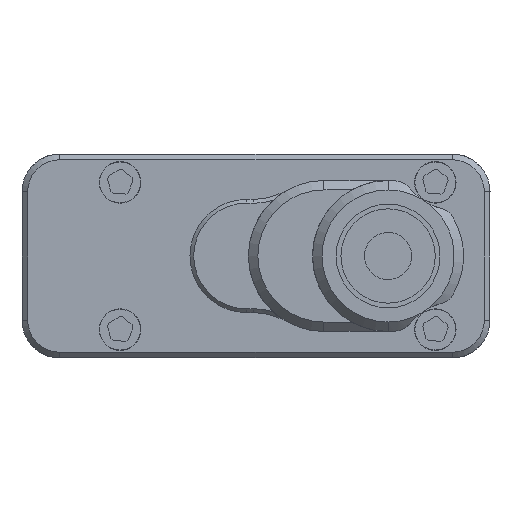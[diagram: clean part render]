
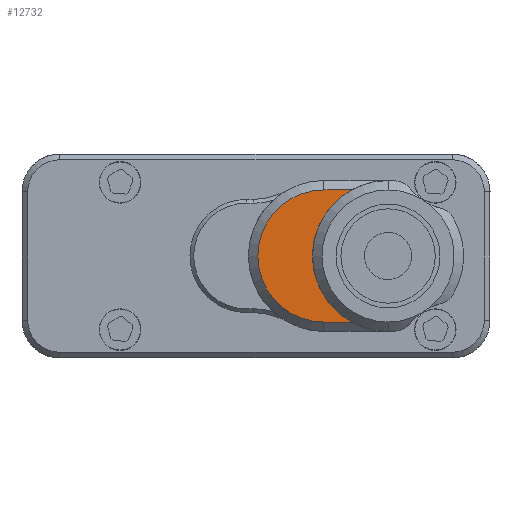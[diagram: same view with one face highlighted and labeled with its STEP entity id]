
A CAD part, front view. The second image highlights one B-rep face of the part: STEP entity #12732.
In plain terms, the highlighted planar face has unit normal (0, -1, 0).
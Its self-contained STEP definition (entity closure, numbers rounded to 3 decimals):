
#701 = DIRECTION ( 'NONE',  ( 0., 1., 0. ) ) ;
#1435 = CARTESIAN_POINT ( 'NONE',  ( 7., -27.6, 0. ) ) ;
#2496 = ORIENTED_EDGE ( 'NONE', *, *, #33783, .T. ) ;
#6050 = DIRECTION ( 'NONE',  ( -1., 0., 0. ) ) ;
#6135 = VERTEX_POINT ( 'NONE', #16316 ) ;
#8798 = FACE_OUTER_BOUND ( 'NONE', #17277, .T. ) ;
#8940 = CIRCLE ( 'NONE', #39844, 4. ) ;
#9020 = DIRECTION ( 'NONE',  ( 1., 0., 0. ) ) ;
#9126 = DIRECTION ( 'NONE',  ( 0., -1., 0. ) ) ;
#10149 = ORIENTED_EDGE ( 'NONE', *, *, #39308, .F. ) ;
#11168 = LINE ( 'NONE', #44459, #34325 ) ;
#12265 = AXIS2_PLACEMENT_3D ( 'NONE', #22921, #701, #14099 ) ;
#12732 = ADVANCED_FACE ( 'NONE', ( #8798 ), #27042, .T. ) ;
#12956 = VERTEX_POINT ( 'NONE', #38029 ) ;
#13276 = ORIENTED_EDGE ( 'NONE', *, *, #34217, .T. ) ;
#14099 = DIRECTION ( 'NONE',  ( 0., 0., 1. ) ) ;
#16316 = CARTESIAN_POINT ( 'NONE',  ( 5.064, -27.6, -3.5 ) ) ;
#17277 = EDGE_LOOP ( 'NONE', ( #2496, #10149, #13276, #45420 ) ) ;
#18819 = DIRECTION ( 'NONE',  ( 0., 0., -1. ) ) ;
#22921 = CARTESIAN_POINT ( 'NONE',  ( 3.6, -27.6, 0. ) ) ;
#27042 = PLANE ( 'NONE',  #48741 ) ;
#27865 = DIRECTION ( 'NONE',  ( 0., 0., -1. ) ) ;
#31237 = VERTEX_POINT ( 'NONE', #37506 ) ;
#33783 = EDGE_CURVE ( 'NONE', #50851, #12956, #11168, .T. ) ;
#34217 = EDGE_CURVE ( 'NONE', #31237, #6135, #49065, .T. ) ;
#34325 = VECTOR ( 'NONE', #6050, 1000. ) ;
#35724 = CARTESIAN_POINT ( 'NONE',  ( 7., -27.6, -3.5 ) ) ;
#35788 = DIRECTION ( 'NONE',  ( 0., -1., 0. ) ) ;
#37506 = CARTESIAN_POINT ( 'NONE',  ( 3.6, -27.6, -3.5 ) ) ;
#38029 = CARTESIAN_POINT ( 'NONE',  ( 3.6, -27.6, 3.5 ) ) ;
#39308 = EDGE_CURVE ( 'NONE', #31237, #12956, #54947, .T. ) ;
#39715 = CARTESIAN_POINT ( 'NONE',  ( 5.064, -27.6, 3.5 ) ) ;
#39844 = AXIS2_PLACEMENT_3D ( 'NONE', #1435, #9126, #18819 ) ;
#44459 = CARTESIAN_POINT ( 'NONE',  ( 7., -27.6, 3.5 ) ) ;
#45420 = ORIENTED_EDGE ( 'NONE', *, *, #55616, .F. ) ;
#47098 = VECTOR ( 'NONE', #9020, 1000. ) ;
#48011 = CARTESIAN_POINT ( 'NONE',  ( 7., -27.6, 0. ) ) ;
#48741 = AXIS2_PLACEMENT_3D ( 'NONE', #48011, #35788, #27865 ) ;
#49065 = LINE ( 'NONE', #35724, #47098 ) ;
#50851 = VERTEX_POINT ( 'NONE', #39715 ) ;
#54947 = CIRCLE ( 'NONE', #12265, 3.5 ) ;
#55616 = EDGE_CURVE ( 'NONE', #50851, #6135, #8940, .T. ) ;
